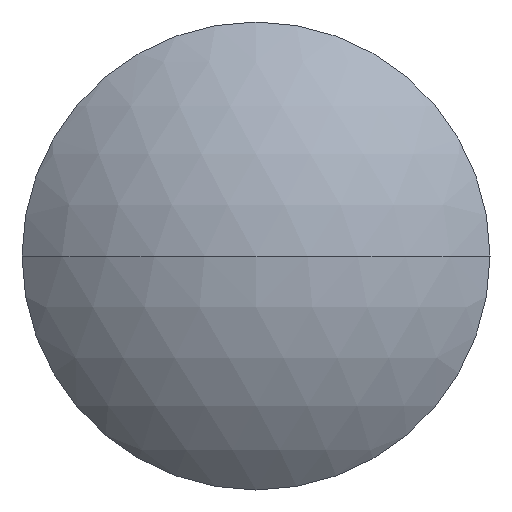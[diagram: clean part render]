
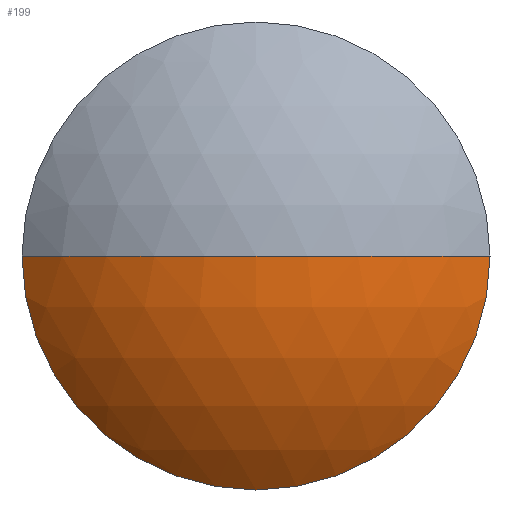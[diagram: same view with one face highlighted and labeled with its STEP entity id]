
A CAD part, left-side view. The second image highlights one B-rep face of the part: STEP entity #199.
In plain terms, the highlighted spherical face has radius 30.688 mm.
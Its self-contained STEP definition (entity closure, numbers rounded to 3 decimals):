
#2 = ORIENTED_EDGE ( 'NONE', *, *, #38, .T. ) ;
#11 = CARTESIAN_POINT ( 'NONE',  ( 19.688, 0., 0. ) ) ;
#13 = CARTESIAN_POINT ( 'NONE',  ( -11., 0., 0. ) ) ;
#21 = EDGE_CURVE ( 'NONE', #303, #74, #253, .T. ) ;
#22 = AXIS2_PLACEMENT_3D ( 'NONE', #118, #226, #181 ) ;
#38 = EDGE_CURVE ( 'NONE', #303, #167, #157, .T. ) ;
#42 = CARTESIAN_POINT ( 'NONE',  ( -2.5, 0., 0. ) ) ;
#51 = CIRCLE ( 'NONE', #97, 30.688 ) ;
#58 = EDGE_LOOP ( 'NONE', ( #2, #268, #252, #308 ) ) ;
#64 = DIRECTION ( 'NONE',  ( 0., 0., 1. ) ) ;
#73 = DIRECTION ( 'NONE',  ( 0., 1., 0. ) ) ;
#74 = VERTEX_POINT ( 'NONE', #13 ) ;
#88 = CARTESIAN_POINT ( 'NONE',  ( -2.5, 0., -21.2 ) ) ;
#97 = AXIS2_PLACEMENT_3D ( 'NONE', #100, #345, #73 ) ;
#100 = CARTESIAN_POINT ( 'NONE',  ( 19.688, 0., 0. ) ) ;
#118 = CARTESIAN_POINT ( 'NONE',  ( 19.688, 0., 0. ) ) ;
#132 = VERTEX_POINT ( 'NONE', #337 ) ;
#147 = FACE_OUTER_BOUND ( 'NONE', #58, .T. ) ;
#150 = AXIS2_PLACEMENT_3D ( 'NONE', #339, #233, #201 ) ;
#155 = DIRECTION ( 'NONE',  ( -1., 0., 0. ) ) ;
#157 = CIRCLE ( 'NONE', #150, 21.2 ) ;
#167 = VERTEX_POINT ( 'NONE', #88 ) ;
#174 = AXIS2_PLACEMENT_3D ( 'NONE', #42, #155, #183 ) ;
#181 = DIRECTION ( 'NONE',  ( 0., 1., 0. ) ) ;
#183 = DIRECTION ( 'NONE',  ( 0., 0., 1. ) ) ;
#199 = ADVANCED_FACE ( 'NONE', ( #147 ), #284, .T. ) ;
#201 = DIRECTION ( 'NONE',  ( 0., 0., 1. ) ) ;
#226 = DIRECTION ( 'NONE',  ( 0., 0., -1. ) ) ;
#228 = DIRECTION ( 'NONE',  ( 1., 0., 0. ) ) ;
#233 = DIRECTION ( 'NONE',  ( -1., 0., 0. ) ) ;
#252 = ORIENTED_EDGE ( 'NONE', *, *, #328, .T. ) ;
#253 = CIRCLE ( 'NONE', #307, 30.688 ) ;
#268 = ORIENTED_EDGE ( 'NONE', *, *, #287, .T. ) ;
#279 = CIRCLE ( 'NONE', #174, 21.2 ) ;
#284 = SPHERICAL_SURFACE ( 'NONE', #22, 30.688 ) ;
#287 = EDGE_CURVE ( 'NONE', #167, #132, #279, .T. ) ;
#303 = VERTEX_POINT ( 'NONE', #316 ) ;
#307 = AXIS2_PLACEMENT_3D ( 'NONE', #11, #64, #228 ) ;
#308 = ORIENTED_EDGE ( 'NONE', *, *, #21, .F. ) ;
#316 = CARTESIAN_POINT ( 'NONE',  ( -2.5, 21.2, 0. ) ) ;
#328 = EDGE_CURVE ( 'NONE', #132, #74, #51, .T. ) ;
#337 = CARTESIAN_POINT ( 'NONE',  ( -2.5, -21.2, 0. ) ) ;
#339 = CARTESIAN_POINT ( 'NONE',  ( -2.5, 0., 0. ) ) ;
#345 = DIRECTION ( 'NONE',  ( 0., 0., -1. ) ) ;
